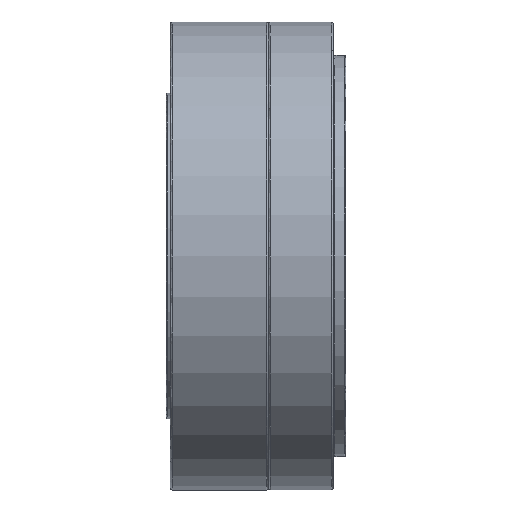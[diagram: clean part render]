
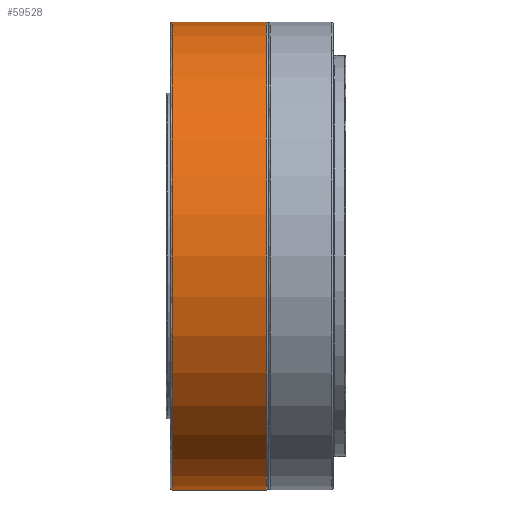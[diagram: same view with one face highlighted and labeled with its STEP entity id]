
A CAD part, front view. The second image highlights one B-rep face of the part: STEP entity #59528.
In plain terms, the highlighted cylindrical face has radius 56 mm (diameter 112 mm), a partial arc.
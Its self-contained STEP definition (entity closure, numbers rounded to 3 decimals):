
#7294 = DIRECTION ( 'NONE',  ( 0., 0., 1. ) ) ;
#8694 = DIRECTION ( 'NONE',  ( -1., 0., 0. ) ) ;
#8885 = CARTESIAN_POINT ( 'NONE',  ( 23., 0., 56. ) ) ;
#11434 = CARTESIAN_POINT ( 'NONE',  ( 23., 0., 0. ) ) ;
#16296 = DIRECTION ( 'NONE',  ( 1., 0., 0. ) ) ;
#25903 = CIRCLE ( 'NONE', #90471, 56. ) ;
#29752 = VERTEX_POINT ( 'NONE', #59391 ) ;
#31870 = ORIENTED_EDGE ( 'NONE', *, *, #85695, .T. ) ;
#36461 = CYLINDRICAL_SURFACE ( 'NONE', #96586, 56. ) ;
#37196 = EDGE_CURVE ( 'NONE', #43456, #61761, #49513, .T. ) ;
#41374 = ORIENTED_EDGE ( 'NONE', *, *, #68261, .T. ) ;
#41978 = ORIENTED_EDGE ( 'NONE', *, *, #50420, .T. ) ;
#43456 = VERTEX_POINT ( 'NONE', #67871 ) ;
#44914 = DIRECTION ( 'NONE',  ( -1., 0., 0. ) ) ;
#45790 = LINE ( 'NONE', #96606, #55117 ) ;
#49513 = LINE ( 'NONE', #68048, #92599 ) ;
#49890 = FACE_OUTER_BOUND ( 'NONE', #62741, .T. ) ;
#50420 = EDGE_CURVE ( 'NONE', #43456, #88396, #106656, .T. ) ;
#53679 = DIRECTION ( 'NONE',  ( -1., 0., 0. ) ) ;
#55117 = VECTOR ( 'NONE', #53679, 1000. ) ;
#57231 = DIRECTION ( 'NONE',  ( -1., 0., 0. ) ) ;
#57602 = CARTESIAN_POINT ( 'NONE',  ( 0., 0., 0. ) ) ;
#59391 = CARTESIAN_POINT ( 'NONE',  ( 0.5, 0., 56. ) ) ;
#59528 = ADVANCED_FACE ( 'NONE', ( #49890 ), #36461, .T. ) ;
#60381 = CARTESIAN_POINT ( 'NONE',  ( 0.5, 0., -56. ) ) ;
#61761 = VERTEX_POINT ( 'NONE', #60381 ) ;
#62741 = EDGE_LOOP ( 'NONE', ( #80052, #41978, #31870, #41374 ) ) ;
#67871 = CARTESIAN_POINT ( 'NONE',  ( 23., 0., -56. ) ) ;
#68048 = CARTESIAN_POINT ( 'NONE',  ( 0., 0., -56. ) ) ;
#68261 = EDGE_CURVE ( 'NONE', #29752, #61761, #25903, .T. ) ;
#80052 = ORIENTED_EDGE ( 'NONE', *, *, #37196, .F. ) ;
#81590 = AXIS2_PLACEMENT_3D ( 'NONE', #11434, #44914, #96079 ) ;
#85695 = EDGE_CURVE ( 'NONE', #88396, #29752, #45790, .T. ) ;
#88396 = VERTEX_POINT ( 'NONE', #8885 ) ;
#90471 = AXIS2_PLACEMENT_3D ( 'NONE', #94505, #16296, #7294 ) ;
#92599 = VECTOR ( 'NONE', #8694, 1000. ) ;
#94505 = CARTESIAN_POINT ( 'NONE',  ( 0.5, 0., 0. ) ) ;
#96079 = DIRECTION ( 'NONE',  ( 0., 0., 1. ) ) ;
#96586 = AXIS2_PLACEMENT_3D ( 'NONE', #57602, #57231, #108070 ) ;
#96606 = CARTESIAN_POINT ( 'NONE',  ( 0., 0., 56. ) ) ;
#106656 = CIRCLE ( 'NONE', #81590, 56. ) ;
#108070 = DIRECTION ( 'NONE',  ( 0., 0., 1. ) ) ;
